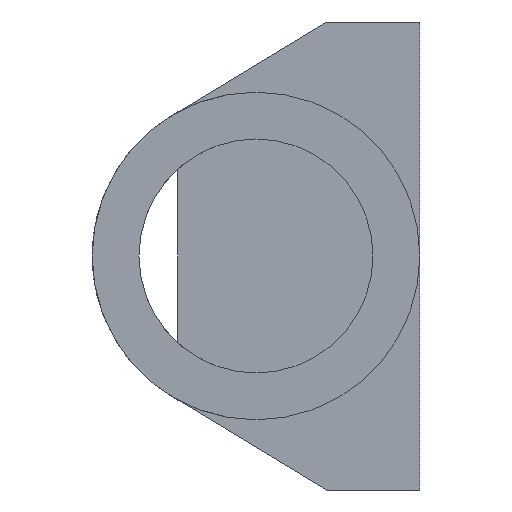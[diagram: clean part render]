
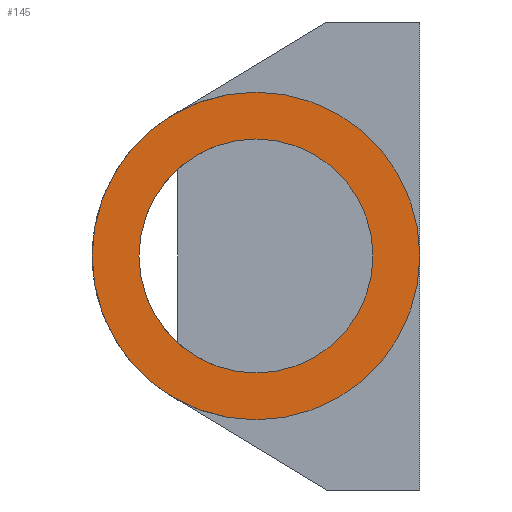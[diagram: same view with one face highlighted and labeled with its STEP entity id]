
A CAD part, left-side view. The second image highlights one B-rep face of the part: STEP entity #145.
In plain terms, the highlighted planar face has unit normal (-1, 0, 0).
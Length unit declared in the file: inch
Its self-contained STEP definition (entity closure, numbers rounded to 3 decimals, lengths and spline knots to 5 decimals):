
#3 = DIRECTION ( 'NONE',  ( 0., 0., 1. ) ) ;
#46 = EDGE_CURVE ( 'NONE', #121, #122, #255, .T. ) ;
#76 = ORIENTED_EDGE ( 'NONE', *, *, #117, .F. ) ;
#77 = ORIENTED_EDGE ( 'NONE', *, *, #78, .F. ) ;
#78 = EDGE_CURVE ( 'NONE', #119, #118, #406, .T. ) ;
#84 = EDGE_LOOP ( 'NONE', ( #146, #92 ) ) ;
#91 = EDGE_CURVE ( 'NONE', #122, #121, #409, .T. ) ;
#92 = ORIENTED_EDGE ( 'NONE', *, *, #46, .T. ) ;
#93 = EDGE_LOOP ( 'NONE', ( #76, #77 ) ) ;
#117 = EDGE_CURVE ( 'NONE', #118, #119, #435, .T. ) ;
#118 = VERTEX_POINT ( 'NONE', #430 ) ;
#119 = VERTEX_POINT ( 'NONE', #429 ) ;
#121 = VERTEX_POINT ( 'NONE', #427 ) ;
#122 = VERTEX_POINT ( 'NONE', #426 ) ;
#145 = ADVANCED_FACE ( 'NONE', ( #537, #536 ), #535, .T. ) ;
#146 = ORIENTED_EDGE ( 'NONE', *, *, #91, .T. ) ;
#254 = AXIS2_PLACEMENT_3D ( 'NONE', #348, #366, #365 ) ;
#255 = CIRCLE ( 'NONE', #254, 0.21 ) ;
#348 = CARTESIAN_POINT ( 'NONE',  ( -3.525, 0.21, 0. ) ) ;
#365 = DIRECTION ( 'NONE',  ( 0., 0., 1. ) ) ;
#366 = DIRECTION ( 'NONE',  ( -1., 0., 0. ) ) ;
#403 = DIRECTION ( 'NONE',  ( -1., 0., 0. ) ) ;
#404 = CARTESIAN_POINT ( 'NONE',  ( -3.525, 0.21, 0. ) ) ;
#405 = AXIS2_PLACEMENT_3D ( 'NONE', #404, #403, #3 ) ;
#406 = CIRCLE ( 'NONE', #405, 0.15 ) ;
#409 = CIRCLE ( 'NONE', #437, 0.21 ) ;
#426 = CARTESIAN_POINT ( 'NONE',  ( -3.525, 0.21, -0.21 ) ) ;
#427 = CARTESIAN_POINT ( 'NONE',  ( -3.525, 0.21, 0.21 ) ) ;
#429 = CARTESIAN_POINT ( 'NONE',  ( -3.525, 0.21, 0.15 ) ) ;
#430 = CARTESIAN_POINT ( 'NONE',  ( -3.525, 0.21, -0.15 ) ) ;
#431 = DIRECTION ( 'NONE',  ( 0., 0., 1. ) ) ;
#432 = DIRECTION ( 'NONE',  ( -1., 0., 0. ) ) ;
#433 = CARTESIAN_POINT ( 'NONE',  ( -3.525, 0.21, 0. ) ) ;
#434 = AXIS2_PLACEMENT_3D ( 'NONE', #433, #432, #431 ) ;
#435 = CIRCLE ( 'NONE', #434, 0.15 ) ;
#437 = AXIS2_PLACEMENT_3D ( 'NONE', #554, #553, #552 ) ;
#492 = DIRECTION ( 'NONE',  ( 0., 0., 1. ) ) ;
#493 = DIRECTION ( 'NONE',  ( -1., 0., 0. ) ) ;
#494 = CARTESIAN_POINT ( 'NONE',  ( -3.525, 0.21, 0. ) ) ;
#534 = AXIS2_PLACEMENT_3D ( 'NONE', #494, #493, #492 ) ;
#535 = PLANE ( 'NONE',  #534 ) ;
#536 = FACE_BOUND ( 'NONE', #93, .T. ) ;
#537 = FACE_OUTER_BOUND ( 'NONE', #84, .T. ) ;
#552 = DIRECTION ( 'NONE',  ( 0., 0., 1. ) ) ;
#553 = DIRECTION ( 'NONE',  ( -1., 0., 0. ) ) ;
#554 = CARTESIAN_POINT ( 'NONE',  ( -3.525, 0.21, 0. ) ) ;
